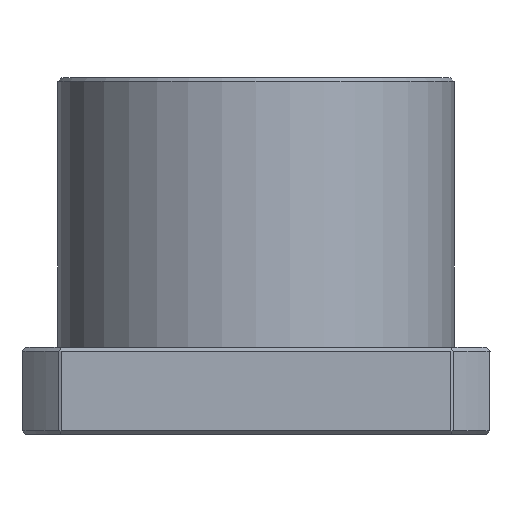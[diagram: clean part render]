
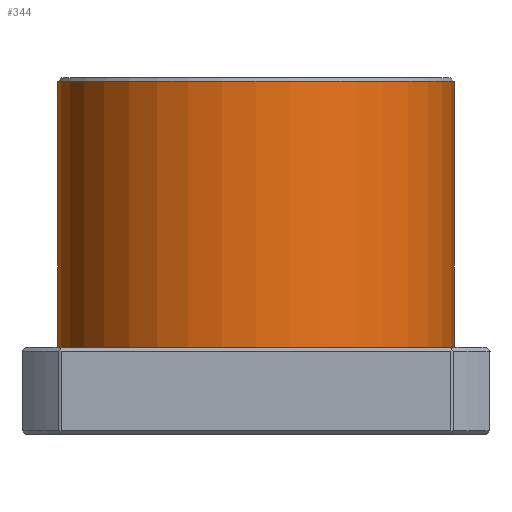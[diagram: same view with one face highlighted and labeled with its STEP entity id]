
A CAD part, front view. The second image highlights one B-rep face of the part: STEP entity #344.
In plain terms, the highlighted cylindrical face has radius 25 mm (diameter 50 mm), a partial arc.
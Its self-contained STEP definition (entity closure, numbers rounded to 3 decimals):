
#190 = VERTEX_POINT ( 'NONE', #4115 ) ;
#193 = EDGE_CURVE ( 'NONE', #201, #190, #4114, .T. ) ;
#201 = VERTEX_POINT ( 'NONE', #4159 ) ;
#203 = EDGE_CURVE ( 'NONE', #211, #208, #4158, .T. ) ;
#208 = VERTEX_POINT ( 'NONE', #4148 ) ;
#211 = VERTEX_POINT ( 'NONE', #4147 ) ;
#271 = EDGE_CURVE ( 'NONE', #211, #201, #4282, .T. ) ;
#291 = EDGE_LOOP ( 'NONE', ( #345, #346, #299, #300 ) ) ;
#299 = ORIENTED_EDGE ( 'NONE', *, *, #193, .T. ) ;
#300 = ORIENTED_EDGE ( 'NONE', *, *, #332, .F. ) ;
#332 = EDGE_CURVE ( 'NONE', #208, #190, #4368, .T. ) ;
#344 = ADVANCED_FACE ( 'NONE', ( #4354 ), #4414, .T. ) ;
#345 = ORIENTED_EDGE ( 'NONE', *, *, #203, .F. ) ;
#346 = ORIENTED_EDGE ( 'NONE', *, *, #271, .T. ) ;
#4111 = DIRECTION ( 'NONE',  ( 0., 0., 1. ) ) ;
#4112 = VECTOR ( 'NONE', #4111, 1000. ) ;
#4113 = CARTESIAN_POINT ( 'NONE',  ( 25., 0., 11. ) ) ;
#4114 = LINE ( 'NONE', #4113, #4112 ) ;
#4115 = CARTESIAN_POINT ( 'NONE',  ( 25., 0., 44.5 ) ) ;
#4147 = CARTESIAN_POINT ( 'NONE',  ( -25., 0., 11. ) ) ;
#4148 = CARTESIAN_POINT ( 'NONE',  ( -25., 0., 44.5 ) ) ;
#4155 = DIRECTION ( 'NONE',  ( 0., 0., 1. ) ) ;
#4156 = VECTOR ( 'NONE', #4155, 1000. ) ;
#4157 = CARTESIAN_POINT ( 'NONE',  ( -25., 0., 11. ) ) ;
#4158 = LINE ( 'NONE', #4157, #4156 ) ;
#4159 = CARTESIAN_POINT ( 'NONE',  ( 25., 0., 11. ) ) ;
#4278 = DIRECTION ( 'NONE',  ( 1., 0., 0. ) ) ;
#4279 = DIRECTION ( 'NONE',  ( 0., 0., 1. ) ) ;
#4280 = CARTESIAN_POINT ( 'NONE',  ( 0., 0., 11. ) ) ;
#4281 = AXIS2_PLACEMENT_3D ( 'NONE', #4280, #4279, #4278 ) ;
#4282 = CIRCLE ( 'NONE', #4281, 25. ) ;
#4354 = FACE_OUTER_BOUND ( 'NONE', #291, .T. ) ;
#4364 = DIRECTION ( 'NONE',  ( -1., 0., 0. ) ) ;
#4365 = DIRECTION ( 'NONE',  ( 0., 0., 1. ) ) ;
#4366 = CARTESIAN_POINT ( 'NONE',  ( 0., 0., 44.5 ) ) ;
#4367 = AXIS2_PLACEMENT_3D ( 'NONE', #4366, #4365, #4364 ) ;
#4368 = CIRCLE ( 'NONE', #4367, 25. ) ;
#4409 = DIRECTION ( 'NONE',  ( 1., 0., 0. ) ) ;
#4410 = DIRECTION ( 'NONE',  ( 0., 0., 1. ) ) ;
#4411 = CARTESIAN_POINT ( 'NONE',  ( 0., 0., 11. ) ) ;
#4412 = AXIS2_PLACEMENT_3D ( 'NONE', #4411, #4410, #4409 ) ;
#4414 = CYLINDRICAL_SURFACE ( 'NONE', #4412, 25. ) ;
